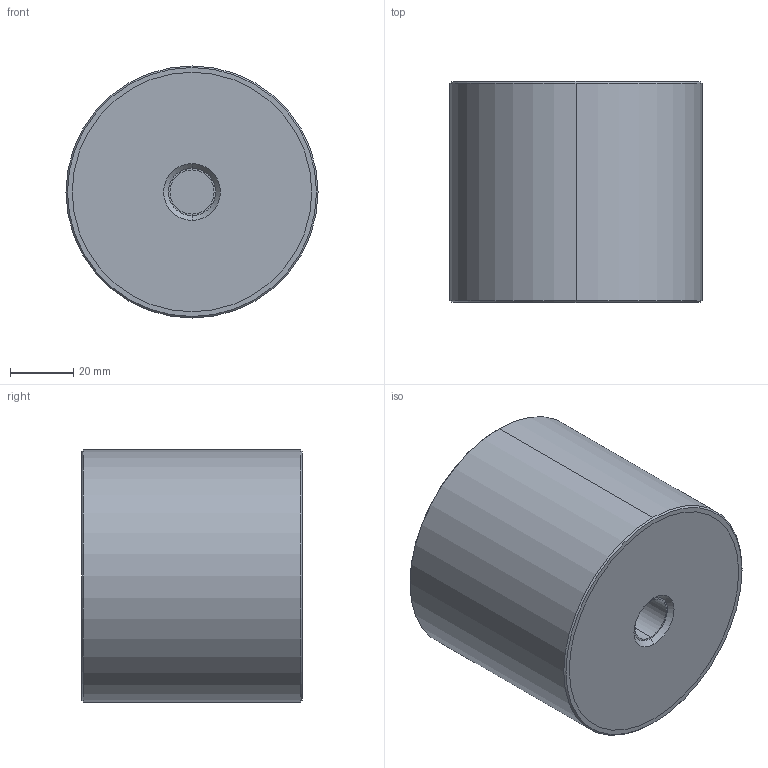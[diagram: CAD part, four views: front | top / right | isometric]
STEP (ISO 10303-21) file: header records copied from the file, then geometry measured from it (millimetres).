
FILE_DESCRIPTION (( 'STEP AP203' ), '1' );
FILE_NAME ('61080.W0801.step', '2018-07-16T20:46:55', ( '' ), ( '' ), 'SwSTEP 2.0', 'SolidWorks 2017', '' );
FILE_SCHEMA (( 'CONFIG_CONTROL_DESIGN' ));
Length unit declared in the file: millimetre
Products named in the file (4): Part3_61080.W0801; Part1_61080.W0801; 61080.W0801; Part2_61080.W0801
Assembly tree (3 placements, depth 2):
  61080.W0801
    Part1_61080.W0801
    Part2_61080.W0801
    Part3_61080.W0801
Bounding box: 80 x 70 x 80 mm (x, y, z)
Volume: 347304.1 mm3; surface area: 47533.7 mm2
Topology: 3 solids, 3 shells, 32 faces, 62 edges, 40 vertices
Faces by surface type: cylinder 14, plane 10, cone 8
Entity records: 1256 total; most frequent: DIRECTION 178, CARTESIAN_POINT 140, ORIENTED_EDGE 124, AXIS2_PLACEMENT_3D 78, EDGE_CURVE 62, VERTEX_POINT 40, EDGE_LOOP 40, CIRCLE 40
